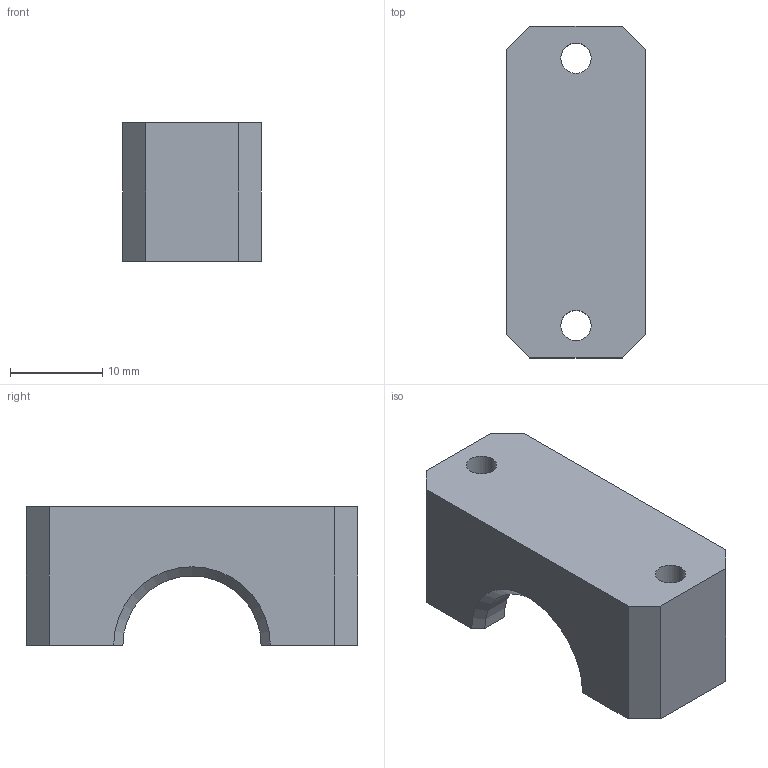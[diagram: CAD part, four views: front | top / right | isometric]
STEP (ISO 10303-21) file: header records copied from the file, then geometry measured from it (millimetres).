
FILE_DESCRIPTION(/* description */ (''),/* implementation_level */ '2;1');
FILE_NAME(/* name */ 'D:\3D печать\Мои проекты\Archy MK 2\STEP\MK3\Крепление подшипника для редуктора V3.3.stp',/* time_stamp */ '2019-09-14T00:19:25+06:00',/* author */ ('Пользователь'),/* organization */ (''),/* preprocessor_version */ 'ST-DEVELOPER v16.5',/* originating_system */ 'Autodesk Inventor 2017',/* authorisation */ '');
FILE_SCHEMA (('AUTOMOTIVE_DESIGN { 1 0 10303 214 3 1 1 }'));
Length unit declared in the file: millimetre
Products named in the file (1): Крепление \X2\043F043E043404480438
043F043D0438043A0430\X0\ для \X2\0440043504340443043A
0442043E04400430\X0\ V3.3
Bounding box: 15 x 36 x 15 mm (x, y, z)
Volume: 5571.5 mm3; surface area: 2933 mm2
Topology: 1 solids, 1 shells, 20 faces, 54 edges, 36 vertices
Faces by surface type: plane 13, cylinder 5, cone 2
Full cylindrical faces by diameter (mm): 3.3 x2
Entity records: 652 total; most frequent: CARTESIAN_POINT 109, DIRECTION 106, ORIENTED_EDGE 104, EDGE_CURVE 52, LINE 40, VECTOR 40, VERTEX_POINT 36, AXIS2_PLACEMENT_3D 33
